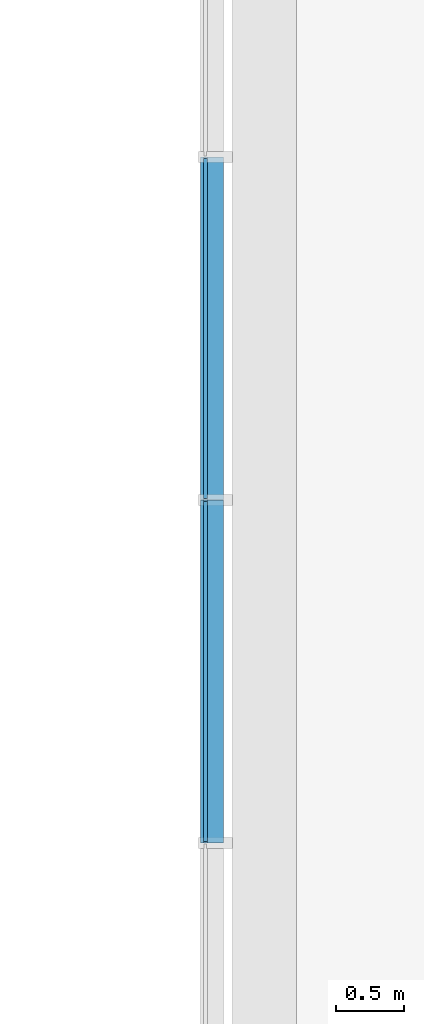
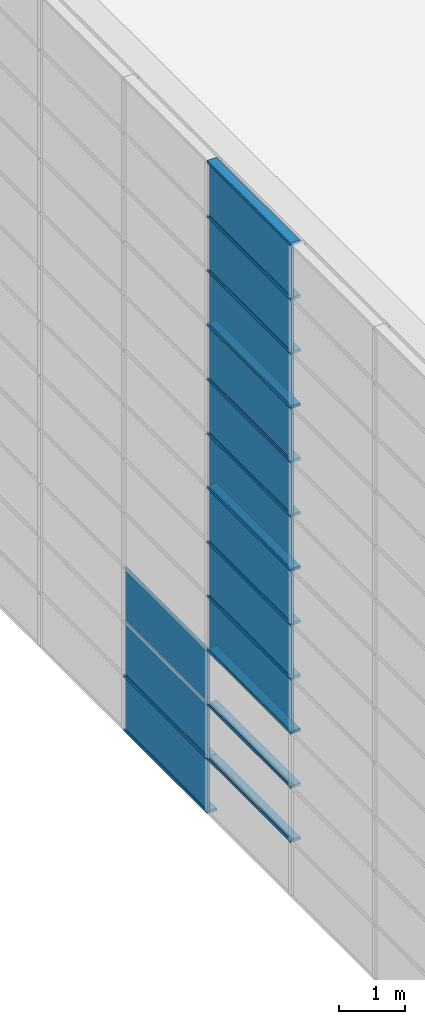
# One storey, part 9 of 105: 29 building element parts, 4 elements without a shape of their own.
"""IFC4 building model written with IfcOpenShell, lengths in millimetres."""

from ifc_helpers import new_model, entity, si_unit, converted_unit, derived_unit, direction, frame, origin_with_axes, place, context, subcontext, project, spatial, triangles, material, element, aggregate, save


model = new_model("IFC4")

# Units and contexts
model_context = context("Model", 3, precision=1e-05, world=origin_with_axes(), true_north=direction((0.0, 1.0)))
body_context = subcontext(model_context, "Body", "Model", "MODEL_VIEW")
ifc_project = project(units=[si_unit("LENGTHUNIT", "METRE", prefix="MILLI"), si_unit("AREAUNIT", "SQUARE_METRE"), si_unit("VOLUMEUNIT", "CUBIC_METRE"), converted_unit("PLANEANGLEUNIT", "DEGREE", entity("IfcLengthMeasure", 0.017453), si_unit("PLANEANGLEUNIT", "RADIAN"), dimensions=[0, 0, 0, 0, 0, 0, 0]), si_unit("SOLIDANGLEUNIT", "STERADIAN"), si_unit("MASSUNIT", "GRAM"), si_unit("TIMEUNIT", "SECOND"), si_unit("THERMODYNAMICTEMPERATUREUNIT", "DEGREE_CELSIUS"), si_unit("LUMINOUSINTENSITYUNIT", "LUMEN"), si_unit("POWERUNIT", "WATT"), derived_unit("THERMALTRANSMITTANCEUNIT", [(si_unit("POWERUNIT", "WATT"), 1), (si_unit("THERMODYNAMICTEMPERATUREUNIT", "KELVIN"), -1), (si_unit("AREAUNIT", "SQUARE_METRE"), -1)])], contexts=[model_context])

# Site, building, storey
site_placement = place(None, origin_with_axes())
site = spatial("IfcSite", under=ifc_project, at=site_placement, Name="Default Site", CompositionType="ELEMENT")
building_placement = place(site_placement, origin_with_axes())
building = spatial("IfcBuilding", under=site, at=building_placement, Name="Default Building", CompositionType="ELEMENT")
storey_placement = place(building_placement, origin_with_axes())
storey = spatial("IfcBuildingStorey", under=building, at=storey_placement, Name="OG - Story", CompositionType="ELEMENT", Elevation=0.0)

# Curtain wall, building element parts
curtain_wall_1_placement = place(storey_placement, origin_with_axes())
curtain_wall_1 = element("IfcCurtainWall", 1, at=curtain_wall_1_placement, inside=storey, Name="Fassade-003", PredefinedType="NOTDEFINED")
ifc_material_1 = material(Name="Normalglas")
building_element_part_1_placement = place(curtain_wall_1_placement, frame((31551.391327, -51326.104944, 0.0), z_axis=(0.0, 0.0, 1.0), x_axis=(1.0, 0.0, 0.0)))
building_element_part_1 = element("IfcBuildingElementPart", 2, at=building_element_part_1_placement, material=ifc_material_1, Name="Normalglas", PredefinedType="NOTDEFINED", context=body_context, shape_type="Tessellation", body=[
    triangles([(15.0, 11358.421, 995.0), (-14.999, 11358.421, 995.0), (-14.999, 8852.105, 995.0), (15.0, 8852.105, 995.0), (15.0, 11358.421, 5.0), (-14.999, 11358.421, 5.0), (-14.999, 8852.105, 5.0), (15.0, 8852.105, 5.0)], [[1, 2, 3], [1, 3, 4], [5, 6, 2], [5, 2, 1], [2, 6, 7], [2, 7, 3], [4, 3, 7], [4, 7, 8], [1, 4, 8], [1, 8, 5], [8, 7, 6], [8, 6, 5]], closed=False),
])
building_element_part_2_placement = place(curtain_wall_1_placement, frame((31551.391327, -51326.104944, 0.0), z_axis=(0.0, 0.0, 1.0), x_axis=(1.0, 0.0, 0.0)))
building_element_part_2 = element("IfcBuildingElementPart", 3, at=building_element_part_2_placement, material=ifc_material_1, Name="Normalglas", PredefinedType="NOTDEFINED", context=body_context, shape_type="Tessellation", body=[
    triangles([(15.0, 11358.421, 1995.0), (-14.999, 11358.421, 1995.0), (-14.999, 8852.105, 1995.0), (15.0, 8852.105, 1995.0), (15.0, 11358.421, 1005.0), (-14.999, 11358.421, 1005.0), (-14.999, 8852.105, 1005.0), (15.0, 8852.105, 1005.0)], [[1, 2, 3], [1, 3, 4], [5, 6, 2], [5, 2, 1], [2, 6, 7], [2, 7, 3], [4, 3, 7], [4, 7, 8], [1, 4, 8], [1, 8, 5], [8, 7, 6], [8, 6, 5]], closed=False),
])
building_element_part_3_placement = place(curtain_wall_1_placement, frame((31551.391327, -51326.104944, 0.0), z_axis=(0.0, 0.0, 1.0), x_axis=(1.0, 0.0, 0.0)))
building_element_part_3 = element("IfcBuildingElementPart", 4, at=building_element_part_3_placement, material=ifc_material_1, Name="Normalglas", PredefinedType="NOTDEFINED", context=body_context, shape_type="Tessellation", body=[
    triangles([(15.0, 11358.421, 2995.0), (-14.999, 11358.421, 2995.0), (-14.999, 8852.105, 2995.0), (15.0, 8852.105, 2995.0), (15.0, 11358.421, 2005.0), (-14.999, 11358.421, 2005.0), (-14.999, 8852.105, 2005.0), (15.0, 8852.105, 2005.0)], [[1, 2, 3], [1, 3, 4], [5, 6, 2], [5, 2, 1], [2, 6, 7], [2, 7, 3], [4, 3, 7], [4, 7, 8], [1, 4, 8], [1, 8, 5], [8, 7, 6], [8, 6, 5]], closed=False),
])
ifc_material_2 = material(Name="Blech")
building_element_part_4_placement = place(curtain_wall_1_placement, frame((31551.391327, -51326.104944, 0.0), z_axis=(0.0, 0.0, 1.0), x_axis=(1.0, 0.0, 0.0)))
building_element_part_4 = element("IfcBuildingElementPart", 5, at=building_element_part_4_placement, material=ifc_material_2, Name="Blech", PredefinedType="NOTDEFINED", context=body_context, shape_type="Tessellation", body=[
    triangles([(15.0, 11368.421, 25.0), (133.0, 11368.421, 25.0), (15.0, 11368.421, 5.0), (133.0, 11368.421, -24.999), (-14.999, 11368.421, 5.0), (-34.999, 11368.421, -24.999), (-34.999, 11368.421, 25.0), (-14.999, 11368.421, 25.0), (15.0, 8842.105, 5.0), (15.0, 8842.105, 25.0), (133.0, 8842.105, 25.0), (133.0, 8842.105, -24.999), (-34.999, 8842.105, -24.999), (-34.999, 8842.105, 25.0), (-14.999, 8842.105, 25.0), (-14.999, 8842.105, 5.0)], [[1, 2, 3], [3, 2, 4], [3, 4, 5], [5, 4, 6], [5, 6, 7], [5, 7, 8], [3, 9, 10], [3, 10, 1], [10, 11, 2], [10, 2, 1], [11, 12, 4], [11, 4, 2], [12, 13, 6], [12, 6, 4], [13, 14, 7], [13, 7, 6], [8, 7, 14], [8, 14, 15], [15, 16, 5], [15, 5, 8], [5, 16, 9], [5, 9, 3], [16, 9, 12], [16, 12, 13], [16, 13, 14], [16, 14, 15], [11, 12, 9], [11, 9, 10]], closed=False),
])
building_element_part_5_placement = place(curtain_wall_1_placement, frame((31551.391327, -51326.104944, 0.0), z_axis=(0.0, 0.0, 1.0), x_axis=(1.0, 0.0, 0.0)))
building_element_part_5 = element("IfcBuildingElementPart", 6, at=building_element_part_5_placement, material=ifc_material_2, Name="Blech", PredefinedType="NOTDEFINED", context=body_context, shape_type="Tessellation", body=[
    triangles([(-14.999, 8842.105, 1025.0), (-34.999, 8842.105, 1025.0), (-14.999, 8842.105, 1005.0), (-14.999, 8842.105, 995.0), (15.0, 8842.105, 1005.0), (133.0, 8842.105, 1025.0), (15.0, 8842.105, 1025.0), (-34.999, 8842.105, 975.0), (-14.999, 8842.105, 975.0), (15.0, 8842.105, 995.0), (15.0, 8842.105, 975.0), (133.0, 8842.105, 975.0), (15.0, 6315.789, 995.0), (-14.999, 6315.789, 995.0), (-14.999, 6315.789, 975.0), (-34.999, 6315.789, 975.0), (-34.999, 6315.789, 1025.0), (-14.999, 6315.789, 1025.0), (-14.999, 6315.789, 1005.0), (15.0, 6315.789, 1005.0), (15.0, 6315.789, 1025.0), (133.0, 6315.789, 1025.0), (133.0, 6315.789, 975.0), (15.0, 6315.789, 975.0)], [[1, 2, 3], [3, 2, 4], [3, 4, 5], [5, 4, 6], [5, 6, 7], [8, 9, 4], [8, 4, 2], [6, 4, 10], [6, 10, 11], [6, 11, 12], [10, 13, 14], [10, 14, 4], [4, 14, 15], [4, 15, 9], [15, 16, 8], [15, 8, 9], [8, 16, 17], [8, 17, 2], [18, 1, 2], [18, 2, 17], [1, 18, 19], [1, 19, 3], [5, 3, 19], [5, 19, 20], [7, 5, 20], [7, 20, 21], [7, 21, 22], [7, 22, 6], [6, 22, 23], [6, 23, 12], [11, 12, 23], [11, 23, 24], [11, 24, 13], [11, 13, 10], [21, 22, 20], [20, 22, 13], [20, 13, 19], [19, 13, 14], [19, 14, 17], [17, 14, 15], [17, 15, 16], [23, 24, 13], [23, 13, 22], [19, 17, 18]], closed=False),
])
building_element_part_6_placement = place(curtain_wall_1_placement, frame((31551.391327, -51326.104944, 0.0), z_axis=(0.0, 0.0, 1.0), x_axis=(1.0, 0.0, 0.0)))
building_element_part_6 = element("IfcBuildingElementPart", 7, at=building_element_part_6_placement, material=ifc_material_2, Name="Blech", PredefinedType="NOTDEFINED", context=body_context, shape_type="Tessellation", body=[
    triangles([(-14.999, 11368.421, 1025.0), (-34.999, 11368.421, 1025.0), (-14.999, 11368.421, 1005.0), (-14.999, 11368.421, 995.0), (15.0, 11368.421, 1005.0), (133.0, 11368.421, 1025.0), (15.0, 11368.421, 1025.0), (-34.999, 11368.421, 975.0), (-14.999, 11368.421, 975.0), (15.0, 11368.421, 995.0), (15.0, 11368.421, 975.0), (133.0, 11368.421, 975.0), (15.0, 8842.105, 995.0), (-14.999, 8842.105, 995.0), (-14.999, 8842.105, 975.0), (-34.999, 8842.105, 975.0), (-34.999, 8842.105, 1025.0), (-14.999, 8842.105, 1025.0), (-14.999, 8842.105, 1005.0), (15.0, 8842.105, 1005.0), (15.0, 8842.105, 1025.0), (133.0, 8842.105, 1025.0), (133.0, 8842.105, 975.0), (15.0, 8842.105, 975.0)], [[1, 2, 3], [3, 2, 4], [3, 4, 5], [5, 4, 6], [5, 6, 7], [8, 9, 4], [8, 4, 2], [6, 4, 10], [6, 10, 11], [6, 11, 12], [10, 13, 14], [10, 14, 4], [4, 14, 15], [4, 15, 9], [15, 16, 8], [15, 8, 9], [8, 16, 17], [8, 17, 2], [18, 1, 2], [18, 2, 17], [1, 18, 19], [1, 19, 3], [5, 3, 19], [5, 19, 20], [7, 5, 20], [7, 20, 21], [7, 21, 22], [7, 22, 6], [6, 22, 23], [6, 23, 12], [11, 12, 23], [11, 23, 24], [11, 24, 13], [11, 13, 10], [21, 22, 20], [20, 22, 13], [20, 13, 19], [19, 13, 14], [19, 14, 17], [17, 14, 15], [17, 15, 16], [23, 24, 13], [23, 13, 22], [19, 17, 18]], closed=False),
])
building_element_part_7_placement = place(curtain_wall_1_placement, frame((31551.391327, -51326.104944, 0.0), z_axis=(0.0, 0.0, 1.0), x_axis=(1.0, 0.0, 0.0)))
building_element_part_7 = element("IfcBuildingElementPart", 8, at=building_element_part_7_placement, material=ifc_material_2, Name="Blech", PredefinedType="NOTDEFINED", context=body_context, shape_type="Tessellation", body=[
    triangles([(-14.999, 8842.105, 2025.0), (-34.999, 8842.105, 2025.0), (-14.999, 8842.105, 2005.0), (-14.999, 8842.105, 1995.0), (15.0, 8842.105, 2005.0), (133.0, 8842.105, 2025.0), (15.0, 8842.105, 2025.0), (-34.999, 8842.105, 1975.0), (-14.999, 8842.105, 1975.0), (15.0, 8842.105, 1995.0), (15.0, 8842.105, 1975.0), (133.0, 8842.105, 1975.0), (15.0, 6315.789, 1995.0), (-14.999, 6315.789, 1995.0), (-14.999, 6315.789, 1975.0), (-34.999, 6315.789, 1975.0), (-34.999, 6315.789, 2025.0), (-14.999, 6315.789, 2025.0), (-14.999, 6315.789, 2005.0), (15.0, 6315.789, 2005.0), (15.0, 6315.789, 2025.0), (133.0, 6315.789, 2025.0), (133.0, 6315.789, 1975.0), (15.0, 6315.789, 1975.0)], [[1, 2, 3], [3, 2, 4], [3, 4, 5], [5, 4, 6], [5, 6, 7], [8, 9, 4], [8, 4, 2], [6, 4, 10], [6, 10, 11], [6, 11, 12], [10, 13, 14], [10, 14, 4], [4, 14, 15], [4, 15, 9], [15, 16, 8], [15, 8, 9], [8, 16, 17], [8, 17, 2], [18, 1, 2], [18, 2, 17], [1, 18, 19], [1, 19, 3], [5, 3, 19], [5, 19, 20], [7, 5, 20], [7, 20, 21], [7, 21, 22], [7, 22, 6], [6, 22, 23], [6, 23, 12], [11, 12, 23], [11, 23, 24], [11, 24, 13], [11, 13, 10], [21, 22, 20], [20, 22, 13], [20, 13, 19], [19, 13, 14], [19, 14, 17], [17, 14, 15], [17, 15, 16], [23, 24, 13], [23, 13, 22], [19, 17, 18]], closed=False),
])
building_element_part_8_placement = place(curtain_wall_1_placement, frame((31551.391327, -51326.104944, 0.0), z_axis=(0.0, 0.0, 1.0), x_axis=(1.0, 0.0, 0.0)))
building_element_part_8 = element("IfcBuildingElementPart", 9, at=building_element_part_8_placement, material=ifc_material_2, Name="Blech", PredefinedType="NOTDEFINED", context=body_context, shape_type="Tessellation", body=[
    triangles([(-14.999, 8842.105, 2995.0), (15.0, 8842.105, 2995.0), (133.0, 8842.105, 3025.0), (-34.999, 8842.105, 3025.0), (-34.999, 8842.105, 2975.0), (-14.999, 8842.105, 2975.0), (15.0, 8842.105, 2975.0), (133.0, 8842.105, 2975.0), (15.0, 6315.789, 2995.0), (-14.999, 6315.789, 2995.0), (-14.999, 6315.789, 2975.0), (-34.999, 6315.789, 2975.0), (-34.999, 6315.789, 3025.0), (133.0, 6315.789, 3025.0), (133.0, 6315.789, 2975.0), (15.0, 6315.789, 2975.0)], [[1, 2, 3], [1, 3, 4], [1, 4, 5], [1, 5, 6], [7, 8, 3], [7, 3, 2], [1, 2, 9], [1, 9, 10], [11, 6, 1], [11, 1, 10], [6, 11, 12], [6, 12, 5], [13, 4, 5], [13, 5, 12], [14, 3, 4], [14, 4, 13], [15, 8, 3], [15, 3, 14], [16, 7, 8], [16, 8, 15], [2, 7, 16], [2, 16, 9], [10, 9, 14], [10, 14, 13], [10, 13, 12], [10, 12, 11], [16, 15, 14], [16, 14, 9]], closed=False),
])
aggregate(curtain_wall_1, [building_element_part_1, building_element_part_2, building_element_part_3, building_element_part_4, building_element_part_5, building_element_part_6, building_element_part_7, building_element_part_8])

curtain_wall_2_placement = place(storey_placement, origin_with_axes())
curtain_wall_2 = element("IfcCurtainWall", 10, at=curtain_wall_2_placement, inside=storey, Name="Fassade-003", PredefinedType="NOTDEFINED")
building_element_part_9_placement = place(curtain_wall_2_placement, frame((31551.391327, -51326.104944, 3000.0), z_axis=(0.0, 0.0, 1.0), x_axis=(1.0, 0.0, 0.0)))
building_element_part_9 = element("IfcBuildingElementPart", 11, at=building_element_part_9_placement, material=ifc_material_1, Name="Normalglas", PredefinedType="NOTDEFINED", context=body_context, shape_type="Tessellation", body=[
    triangles([(15.0, 8832.105, 995.0), (-14.999, 8832.105, 995.0), (-14.999, 6325.789, 995.0), (15.0, 6325.789, 995.0), (15.0, 8832.105, 5.0), (-14.999, 8832.105, 5.0), (-14.999, 6325.789, 5.0), (15.0, 6325.789, 5.0)], [[1, 2, 3], [1, 3, 4], [5, 6, 2], [5, 2, 1], [2, 6, 7], [2, 7, 3], [4, 3, 7], [4, 7, 8], [1, 4, 8], [1, 8, 5], [8, 7, 6], [8, 6, 5]], closed=False),
])
building_element_part_10_placement = place(curtain_wall_2_placement, frame((31551.391327, -51326.104944, 3000.0), z_axis=(0.0, 0.0, 1.0), x_axis=(1.0, 0.0, 0.0)))
building_element_part_10 = element("IfcBuildingElementPart", 12, at=building_element_part_10_placement, material=ifc_material_1, Name="Normalglas", PredefinedType="NOTDEFINED", context=body_context, shape_type="Tessellation", body=[
    triangles([(15.0, 8832.105, 1995.0), (-14.999, 8832.105, 1995.0), (-14.999, 6325.789, 1995.0), (15.0, 6325.789, 1995.0), (15.0, 8832.105, 1005.0), (-14.999, 8832.105, 1005.0), (-14.999, 6325.789, 1005.0), (15.0, 6325.789, 1005.0)], [[1, 2, 3], [1, 3, 4], [5, 6, 2], [5, 2, 1], [2, 6, 7], [2, 7, 3], [4, 3, 7], [4, 7, 8], [1, 4, 8], [1, 8, 5], [8, 7, 6], [8, 6, 5]], closed=False),
])
building_element_part_11_placement = place(curtain_wall_2_placement, frame((31551.391327, -51326.104944, 3000.0), z_axis=(0.0, 0.0, 1.0), x_axis=(1.0, 0.0, 0.0)))
building_element_part_11 = element("IfcBuildingElementPart", 13, at=building_element_part_11_placement, material=ifc_material_1, Name="Normalglas", PredefinedType="NOTDEFINED", context=body_context, shape_type="Tessellation", body=[
    triangles([(15.0, 8832.105, 2995.0), (-14.999, 8832.105, 2995.0), (-14.999, 6325.789, 2995.0), (15.0, 6325.789, 2995.0), (15.0, 8832.105, 2005.0), (-14.999, 8832.105, 2005.0), (-14.999, 6325.789, 2005.0), (15.0, 6325.789, 2005.0)], [[1, 2, 3], [1, 3, 4], [5, 6, 2], [5, 2, 1], [2, 6, 7], [2, 7, 3], [4, 3, 7], [4, 7, 8], [1, 4, 8], [1, 8, 5], [8, 7, 6], [8, 6, 5]], closed=False),
])
building_element_part_12_placement = place(curtain_wall_2_placement, frame((31551.391327, -51326.104944, 3000.0), z_axis=(0.0, 0.0, 1.0), x_axis=(1.0, 0.0, 0.0)))
building_element_part_12 = element("IfcBuildingElementPart", 14, at=building_element_part_12_placement, material=ifc_material_2, Name="Blech", PredefinedType="NOTDEFINED", context=body_context, shape_type="Tessellation", body=[
    triangles([(15.0, 8842.105, 25.0), (133.0, 8842.105, 25.0), (15.0, 8842.105, 5.0), (133.0, 8842.105, -24.999), (-14.999, 8842.105, 5.0), (-34.999, 8842.105, -24.999), (-34.999, 8842.105, 25.0), (-14.999, 8842.105, 25.0), (15.0, 6315.789, 5.0), (15.0, 6315.789, 25.0), (133.0, 6315.789, 25.0), (133.0, 6315.789, -24.999), (-34.999, 6315.789, -24.999), (-34.999, 6315.789, 25.0), (-14.999, 6315.789, 25.0), (-14.999, 6315.789, 5.0)], [[1, 2, 3], [3, 2, 4], [3, 4, 5], [5, 4, 6], [5, 6, 7], [5, 7, 8], [3, 9, 10], [3, 10, 1], [10, 11, 2], [10, 2, 1], [11, 12, 4], [11, 4, 2], [12, 13, 6], [12, 6, 4], [13, 14, 7], [13, 7, 6], [8, 7, 14], [8, 14, 15], [15, 16, 5], [15, 5, 8], [5, 16, 9], [5, 9, 3], [16, 9, 12], [16, 12, 13], [16, 13, 14], [16, 14, 15], [11, 12, 9], [11, 9, 10]], closed=False),
])
building_element_part_13_placement = place(curtain_wall_2_placement, frame((31551.391327, -51326.104944, 3000.0), z_axis=(0.0, 0.0, 1.0), x_axis=(1.0, 0.0, 0.0)))
building_element_part_13 = element("IfcBuildingElementPart", 15, at=building_element_part_13_placement, material=ifc_material_2, Name="Blech", PredefinedType="NOTDEFINED", context=body_context, shape_type="Tessellation", body=[
    triangles([(-14.999, 8842.105, 1025.0), (-34.999, 8842.105, 1025.0), (-14.999, 8842.105, 1005.0), (-14.999, 8842.105, 995.0), (15.0, 8842.105, 1005.0), (133.0, 8842.105, 1025.0), (15.0, 8842.105, 1025.0), (-34.999, 8842.105, 975.0), (-14.999, 8842.105, 975.0), (15.0, 8842.105, 995.0), (15.0, 8842.105, 975.0), (133.0, 8842.105, 975.0), (15.0, 6315.789, 995.0), (-14.999, 6315.789, 995.0), (-14.999, 6315.789, 975.0), (-34.999, 6315.789, 975.0), (-34.999, 6315.789, 1025.0), (-14.999, 6315.789, 1025.0), (-14.999, 6315.789, 1005.0), (15.0, 6315.789, 1005.0), (15.0, 6315.789, 1025.0), (133.0, 6315.789, 1025.0), (133.0, 6315.789, 975.0), (15.0, 6315.789, 975.0)], [[1, 2, 3], [3, 2, 4], [3, 4, 5], [5, 4, 6], [5, 6, 7], [8, 9, 4], [8, 4, 2], [6, 4, 10], [6, 10, 11], [6, 11, 12], [10, 13, 14], [10, 14, 4], [4, 14, 15], [4, 15, 9], [15, 16, 8], [15, 8, 9], [8, 16, 17], [8, 17, 2], [18, 1, 2], [18, 2, 17], [1, 18, 19], [1, 19, 3], [5, 3, 19], [5, 19, 20], [7, 5, 20], [7, 20, 21], [7, 21, 22], [7, 22, 6], [6, 22, 23], [6, 23, 12], [11, 12, 23], [11, 23, 24], [11, 24, 13], [11, 13, 10], [21, 22, 20], [20, 22, 13], [20, 13, 19], [19, 13, 14], [19, 14, 17], [17, 14, 15], [17, 15, 16], [23, 24, 13], [23, 13, 22], [19, 17, 18]], closed=False),
])
building_element_part_14_placement = place(curtain_wall_2_placement, frame((31551.391327, -51326.104944, 3000.0), z_axis=(0.0, 0.0, 1.0), x_axis=(1.0, 0.0, 0.0)))
building_element_part_14 = element("IfcBuildingElementPart", 16, at=building_element_part_14_placement, material=ifc_material_2, Name="Blech", PredefinedType="NOTDEFINED", context=body_context, shape_type="Tessellation", body=[
    triangles([(-14.999, 8842.105, 2025.0), (-34.999, 8842.105, 2025.0), (-14.999, 8842.105, 2005.0), (-14.999, 8842.105, 1995.0), (15.0, 8842.105, 2005.0), (133.0, 8842.105, 2025.0), (15.0, 8842.105, 2025.0), (-34.999, 8842.105, 1975.0), (-14.999, 8842.105, 1975.0), (15.0, 8842.105, 1995.0), (15.0, 8842.105, 1975.0), (133.0, 8842.105, 1975.0), (15.0, 6315.789, 1995.0), (-14.999, 6315.789, 1995.0), (-14.999, 6315.789, 1975.0), (-34.999, 6315.789, 1975.0), (-34.999, 6315.789, 2025.0), (-14.999, 6315.789, 2025.0), (-14.999, 6315.789, 2005.0), (15.0, 6315.789, 2005.0), (15.0, 6315.789, 2025.0), (133.0, 6315.789, 2025.0), (133.0, 6315.789, 1975.0), (15.0, 6315.789, 1975.0)], [[1, 2, 3], [3, 2, 4], [3, 4, 5], [5, 4, 6], [5, 6, 7], [8, 9, 4], [8, 4, 2], [6, 4, 10], [6, 10, 11], [6, 11, 12], [10, 13, 14], [10, 14, 4], [4, 14, 15], [4, 15, 9], [15, 16, 8], [15, 8, 9], [8, 16, 17], [8, 17, 2], [18, 1, 2], [18, 2, 17], [1, 18, 19], [1, 19, 3], [5, 3, 19], [5, 19, 20], [7, 5, 20], [7, 20, 21], [7, 21, 22], [7, 22, 6], [6, 22, 23], [6, 23, 12], [11, 12, 23], [11, 23, 24], [11, 24, 13], [11, 13, 10], [21, 22, 20], [20, 22, 13], [20, 13, 19], [19, 13, 14], [19, 14, 17], [17, 14, 15], [17, 15, 16], [23, 24, 13], [23, 13, 22], [19, 17, 18]], closed=False),
])
building_element_part_15_placement = place(curtain_wall_2_placement, frame((31551.391327, -51326.104944, 3000.0), z_axis=(0.0, 0.0, 1.0), x_axis=(1.0, 0.0, 0.0)))
building_element_part_15 = element("IfcBuildingElementPart", 17, at=building_element_part_15_placement, material=ifc_material_2, Name="Blech", PredefinedType="NOTDEFINED", context=body_context, shape_type="Tessellation", body=[
    triangles([(-14.999, 8842.105, 2995.0), (15.0, 8842.105, 2995.0), (133.0, 8842.105, 3025.0), (-34.999, 8842.105, 3025.0), (-34.999, 8842.105, 2975.0), (-14.999, 8842.105, 2975.0), (15.0, 8842.105, 2975.0), (133.0, 8842.105, 2975.0), (15.0, 6315.789, 2995.0), (-14.999, 6315.789, 2995.0), (-14.999, 6315.789, 2975.0), (-34.999, 6315.789, 2975.0), (-34.999, 6315.789, 3025.0), (133.0, 6315.789, 3025.0), (133.0, 6315.789, 2975.0), (15.0, 6315.789, 2975.0)], [[1, 2, 3], [1, 3, 4], [1, 4, 5], [1, 5, 6], [7, 8, 3], [7, 3, 2], [1, 2, 9], [1, 9, 10], [11, 6, 1], [11, 1, 10], [6, 11, 12], [6, 12, 5], [13, 4, 5], [13, 5, 12], [14, 3, 4], [14, 4, 13], [15, 8, 3], [15, 3, 14], [16, 7, 8], [16, 8, 15], [2, 7, 16], [2, 16, 9], [10, 9, 14], [10, 14, 13], [10, 13, 12], [10, 12, 11], [16, 15, 14], [16, 14, 9]], closed=False),
])
aggregate(curtain_wall_2, [building_element_part_9, building_element_part_10, building_element_part_11, building_element_part_12, building_element_part_13, building_element_part_14, building_element_part_15])

curtain_wall_3_placement = place(storey_placement, origin_with_axes())
curtain_wall_3 = element("IfcCurtainWall", 18, at=curtain_wall_3_placement, inside=storey, Name="Fassade-003", PredefinedType="NOTDEFINED")
building_element_part_16_placement = place(curtain_wall_3_placement, frame((31551.391327, -51326.104944, 6000.0), z_axis=(0.0, 0.0, 1.0), x_axis=(1.0, 0.0, 0.0)))
building_element_part_16 = element("IfcBuildingElementPart", 19, at=building_element_part_16_placement, material=ifc_material_1, Name="Normalglas", PredefinedType="NOTDEFINED", context=body_context, shape_type="Tessellation", body=[
    triangles([(15.0, 8832.105, 995.0), (-14.999, 8832.105, 995.0), (-14.999, 6325.789, 995.0), (15.0, 6325.789, 995.0), (15.0, 8832.105, 5.0), (-14.999, 8832.105, 5.0), (-14.999, 6325.789, 5.0), (15.0, 6325.789, 5.0)], [[1, 2, 3], [1, 3, 4], [5, 6, 2], [5, 2, 1], [2, 6, 7], [2, 7, 3], [4, 3, 7], [4, 7, 8], [1, 4, 8], [1, 8, 5], [8, 7, 6], [8, 6, 5]], closed=False),
])
building_element_part_17_placement = place(curtain_wall_3_placement, frame((31551.391327, -51326.104944, 6000.0), z_axis=(0.0, 0.0, 1.0), x_axis=(1.0, 0.0, 0.0)))
building_element_part_17 = element("IfcBuildingElementPart", 20, at=building_element_part_17_placement, material=ifc_material_1, Name="Normalglas", PredefinedType="NOTDEFINED", context=body_context, shape_type="Tessellation", body=[
    triangles([(15.0, 8832.105, 1995.0), (-14.999, 8832.105, 1995.0), (-14.999, 6325.789, 1995.0), (15.0, 6325.789, 1995.0), (15.0, 8832.105, 1005.0), (-14.999, 8832.105, 1005.0), (-14.999, 6325.789, 1005.0), (15.0, 6325.789, 1005.0)], [[1, 2, 3], [1, 3, 4], [5, 6, 2], [5, 2, 1], [2, 6, 7], [2, 7, 3], [4, 3, 7], [4, 7, 8], [1, 4, 8], [1, 8, 5], [8, 7, 6], [8, 6, 5]], closed=False),
])
building_element_part_18_placement = place(curtain_wall_3_placement, frame((31551.391327, -51326.104944, 6000.0), z_axis=(0.0, 0.0, 1.0), x_axis=(1.0, 0.0, 0.0)))
building_element_part_18 = element("IfcBuildingElementPart", 21, at=building_element_part_18_placement, material=ifc_material_1, Name="Normalglas", PredefinedType="NOTDEFINED", context=body_context, shape_type="Tessellation", body=[
    triangles([(15.0, 8832.105, 2995.0), (-14.999, 8832.105, 2995.0), (-14.999, 6325.789, 2995.0), (15.0, 6325.789, 2995.0), (15.0, 8832.105, 2005.0), (-14.999, 8832.105, 2005.0), (-14.999, 6325.789, 2005.0), (15.0, 6325.789, 2005.0)], [[1, 2, 3], [1, 3, 4], [5, 6, 2], [5, 2, 1], [2, 6, 7], [2, 7, 3], [4, 3, 7], [4, 7, 8], [1, 4, 8], [1, 8, 5], [8, 7, 6], [8, 6, 5]], closed=False),
])
building_element_part_19_placement = place(curtain_wall_3_placement, frame((31551.391327, -51326.104944, 6000.0), z_axis=(0.0, 0.0, 1.0), x_axis=(1.0, 0.0, 0.0)))
building_element_part_19 = element("IfcBuildingElementPart", 22, at=building_element_part_19_placement, material=ifc_material_2, Name="Blech", PredefinedType="NOTDEFINED", context=body_context, shape_type="Tessellation", body=[
    triangles([(15.0, 8842.105, 25.0), (133.0, 8842.105, 25.0), (15.0, 8842.105, 5.0), (133.0, 8842.105, -24.999), (-14.999, 8842.105, 5.0), (-34.999, 8842.105, -24.999), (-34.999, 8842.105, 25.0), (-14.999, 8842.105, 25.0), (15.0, 6315.789, 5.0), (15.0, 6315.789, 25.0), (133.0, 6315.789, 25.0), (133.0, 6315.789, -24.999), (-34.999, 6315.789, -24.999), (-34.999, 6315.789, 25.0), (-14.999, 6315.789, 25.0), (-14.999, 6315.789, 5.0)], [[1, 2, 3], [3, 2, 4], [3, 4, 5], [5, 4, 6], [5, 6, 7], [5, 7, 8], [3, 9, 10], [3, 10, 1], [10, 11, 2], [10, 2, 1], [11, 12, 4], [11, 4, 2], [12, 13, 6], [12, 6, 4], [13, 14, 7], [13, 7, 6], [8, 7, 14], [8, 14, 15], [15, 16, 5], [15, 5, 8], [5, 16, 9], [5, 9, 3], [16, 9, 12], [16, 12, 13], [16, 13, 14], [16, 14, 15], [11, 12, 9], [11, 9, 10]], closed=False),
])
building_element_part_20_placement = place(curtain_wall_3_placement, frame((31551.391327, -51326.104944, 6000.0), z_axis=(0.0, 0.0, 1.0), x_axis=(1.0, 0.0, 0.0)))
building_element_part_20 = element("IfcBuildingElementPart", 23, at=building_element_part_20_placement, material=ifc_material_2, Name="Blech", PredefinedType="NOTDEFINED", context=body_context, shape_type="Tessellation", body=[
    triangles([(-14.999, 8842.105, 1025.0), (-34.999, 8842.105, 1025.0), (-14.999, 8842.105, 1005.0), (-14.999, 8842.105, 995.0), (15.0, 8842.105, 1005.0), (133.0, 8842.105, 1025.0), (15.0, 8842.105, 1025.0), (-34.999, 8842.105, 975.0), (-14.999, 8842.105, 975.0), (15.0, 8842.105, 995.0), (15.0, 8842.105, 975.0), (133.0, 8842.105, 975.0), (15.0, 6315.789, 995.0), (-14.999, 6315.789, 995.0), (-14.999, 6315.789, 975.0), (-34.999, 6315.789, 975.0), (-34.999, 6315.789, 1025.0), (-14.999, 6315.789, 1025.0), (-14.999, 6315.789, 1005.0), (15.0, 6315.789, 1005.0), (15.0, 6315.789, 1025.0), (133.0, 6315.789, 1025.0), (133.0, 6315.789, 975.0), (15.0, 6315.789, 975.0)], [[1, 2, 3], [3, 2, 4], [3, 4, 5], [5, 4, 6], [5, 6, 7], [8, 9, 4], [8, 4, 2], [6, 4, 10], [6, 10, 11], [6, 11, 12], [10, 13, 14], [10, 14, 4], [4, 14, 15], [4, 15, 9], [15, 16, 8], [15, 8, 9], [8, 16, 17], [8, 17, 2], [18, 1, 2], [18, 2, 17], [1, 18, 19], [1, 19, 3], [5, 3, 19], [5, 19, 20], [7, 5, 20], [7, 20, 21], [7, 21, 22], [7, 22, 6], [6, 22, 23], [6, 23, 12], [11, 12, 23], [11, 23, 24], [11, 24, 13], [11, 13, 10], [21, 22, 20], [20, 22, 13], [20, 13, 19], [19, 13, 14], [19, 14, 17], [17, 14, 15], [17, 15, 16], [23, 24, 13], [23, 13, 22], [19, 17, 18]], closed=False),
])
building_element_part_21_placement = place(curtain_wall_3_placement, frame((31551.391327, -51326.104944, 6000.0), z_axis=(0.0, 0.0, 1.0), x_axis=(1.0, 0.0, 0.0)))
building_element_part_21 = element("IfcBuildingElementPart", 24, at=building_element_part_21_placement, material=ifc_material_2, Name="Blech", PredefinedType="NOTDEFINED", context=body_context, shape_type="Tessellation", body=[
    triangles([(-14.999, 8842.105, 2025.0), (-34.999, 8842.105, 2025.0), (-14.999, 8842.105, 2005.0), (-14.999, 8842.105, 1995.0), (15.0, 8842.105, 2005.0), (133.0, 8842.105, 2025.0), (15.0, 8842.105, 2025.0), (-34.999, 8842.105, 1975.0), (-14.999, 8842.105, 1975.0), (15.0, 8842.105, 1995.0), (15.0, 8842.105, 1975.0), (133.0, 8842.105, 1975.0), (15.0, 6315.789, 1995.0), (-14.999, 6315.789, 1995.0), (-14.999, 6315.789, 1975.0), (-34.999, 6315.789, 1975.0), (-34.999, 6315.789, 2025.0), (-14.999, 6315.789, 2025.0), (-14.999, 6315.789, 2005.0), (15.0, 6315.789, 2005.0), (15.0, 6315.789, 2025.0), (133.0, 6315.789, 2025.0), (133.0, 6315.789, 1975.0), (15.0, 6315.789, 1975.0)], [[1, 2, 3], [3, 2, 4], [3, 4, 5], [5, 4, 6], [5, 6, 7], [8, 9, 4], [8, 4, 2], [6, 4, 10], [6, 10, 11], [6, 11, 12], [10, 13, 14], [10, 14, 4], [4, 14, 15], [4, 15, 9], [15, 16, 8], [15, 8, 9], [8, 16, 17], [8, 17, 2], [18, 1, 2], [18, 2, 17], [1, 18, 19], [1, 19, 3], [5, 3, 19], [5, 19, 20], [7, 5, 20], [7, 20, 21], [7, 21, 22], [7, 22, 6], [6, 22, 23], [6, 23, 12], [11, 12, 23], [11, 23, 24], [11, 24, 13], [11, 13, 10], [21, 22, 20], [20, 22, 13], [20, 13, 19], [19, 13, 14], [19, 14, 17], [17, 14, 15], [17, 15, 16], [23, 24, 13], [23, 13, 22], [19, 17, 18]], closed=False),
])
building_element_part_22_placement = place(curtain_wall_3_placement, frame((31551.391327, -51326.104944, 6000.0), z_axis=(0.0, 0.0, 1.0), x_axis=(1.0, 0.0, 0.0)))
building_element_part_22 = element("IfcBuildingElementPart", 25, at=building_element_part_22_placement, material=ifc_material_2, Name="Blech", PredefinedType="NOTDEFINED", context=body_context, shape_type="Tessellation", body=[
    triangles([(-14.999, 8842.105, 2995.0), (15.0, 8842.105, 2995.0), (133.0, 8842.105, 3025.0), (-34.999, 8842.105, 3025.0), (-34.999, 8842.105, 2975.0), (-14.999, 8842.105, 2975.0), (15.0, 8842.105, 2975.0), (133.0, 8842.105, 2975.0), (15.0, 6315.789, 2995.0), (-14.999, 6315.789, 2995.0), (-14.999, 6315.789, 2975.0), (-34.999, 6315.789, 2975.0), (-34.999, 6315.789, 3025.0), (133.0, 6315.789, 3025.0), (133.0, 6315.789, 2975.0), (15.0, 6315.789, 2975.0)], [[1, 2, 3], [1, 3, 4], [1, 4, 5], [1, 5, 6], [7, 8, 3], [7, 3, 2], [1, 2, 9], [1, 9, 10], [11, 6, 1], [11, 1, 10], [6, 11, 12], [6, 12, 5], [13, 4, 5], [13, 5, 12], [14, 3, 4], [14, 4, 13], [15, 8, 3], [15, 3, 14], [16, 7, 8], [16, 8, 15], [2, 7, 16], [2, 16, 9], [10, 9, 14], [10, 14, 13], [10, 13, 12], [10, 12, 11], [16, 15, 14], [16, 14, 9]], closed=False),
])
aggregate(curtain_wall_3, [building_element_part_16, building_element_part_17, building_element_part_18, building_element_part_19, building_element_part_20, building_element_part_21, building_element_part_22])

curtain_wall_4_placement = place(storey_placement, origin_with_axes())
curtain_wall_4 = element("IfcCurtainWall", 26, at=curtain_wall_4_placement, inside=storey, Name="Fassade-003", PredefinedType="NOTDEFINED")
building_element_part_23_placement = place(curtain_wall_4_placement, frame((31551.391327, -51326.104944, 9000.0), z_axis=(0.0, 0.0, 1.0), x_axis=(1.0, 0.0, 0.0)))
building_element_part_23 = element("IfcBuildingElementPart", 27, at=building_element_part_23_placement, material=ifc_material_1, Name="Normalglas", PredefinedType="NOTDEFINED", context=body_context, shape_type="Tessellation", body=[
    triangles([(15.0, 8832.105, 995.0), (-14.999, 8832.105, 995.0), (-14.999, 6325.789, 995.0), (15.0, 6325.789, 995.0), (15.0, 8832.105, 5.0), (-14.999, 8832.105, 5.0), (-14.999, 6325.789, 5.0), (15.0, 6325.789, 5.0)], [[1, 2, 3], [1, 3, 4], [5, 6, 2], [5, 2, 1], [2, 6, 7], [2, 7, 3], [4, 3, 7], [4, 7, 8], [1, 4, 8], [1, 8, 5], [8, 7, 6], [8, 6, 5]], closed=False),
])
building_element_part_24_placement = place(curtain_wall_4_placement, frame((31551.391327, -51326.104944, 9000.0), z_axis=(0.0, 0.0, 1.0), x_axis=(1.0, 0.0, 0.0)))
building_element_part_24 = element("IfcBuildingElementPart", 28, at=building_element_part_24_placement, material=ifc_material_1, Name="Normalglas", PredefinedType="NOTDEFINED", context=body_context, shape_type="Tessellation", body=[
    triangles([(15.0, 8832.105, 1995.0), (-14.999, 8832.105, 1995.0), (-14.999, 6325.789, 1995.0), (15.0, 6325.789, 1995.0), (15.0, 8832.105, 1005.0), (-14.999, 8832.105, 1005.0), (-14.999, 6325.789, 1005.0), (15.0, 6325.789, 1005.0)], [[1, 2, 3], [1, 3, 4], [5, 6, 2], [5, 2, 1], [2, 6, 7], [2, 7, 3], [4, 3, 7], [4, 7, 8], [1, 4, 8], [1, 8, 5], [8, 7, 6], [8, 6, 5]], closed=False),
])
building_element_part_25_placement = place(curtain_wall_4_placement, frame((31551.391327, -51326.104944, 9000.0), z_axis=(0.0, 0.0, 1.0), x_axis=(1.0, 0.0, 0.0)))
building_element_part_25 = element("IfcBuildingElementPart", 29, at=building_element_part_25_placement, material=ifc_material_1, Name="Normalglas", PredefinedType="NOTDEFINED", context=body_context, shape_type="Tessellation", body=[
    triangles([(15.0, 8832.105, 2995.0), (-14.999, 8832.105, 2995.0), (-14.999, 6325.789, 2995.0), (15.0, 6325.789, 2995.0), (15.0, 8832.105, 2005.0), (-14.999, 8832.105, 2005.0), (-14.999, 6325.789, 2005.0), (15.0, 6325.789, 2005.0)], [[1, 2, 3], [1, 3, 4], [5, 6, 2], [5, 2, 1], [2, 6, 7], [2, 7, 3], [4, 3, 7], [4, 7, 8], [1, 4, 8], [1, 8, 5], [8, 7, 6], [8, 6, 5]], closed=False),
])
building_element_part_26_placement = place(curtain_wall_4_placement, frame((31551.391327, -51326.104944, 9000.0), z_axis=(0.0, 0.0, 1.0), x_axis=(1.0, 0.0, 0.0)))
building_element_part_26 = element("IfcBuildingElementPart", 30, at=building_element_part_26_placement, material=ifc_material_2, Name="Blech", PredefinedType="NOTDEFINED", context=body_context, shape_type="Tessellation", body=[
    triangles([(15.0, 8842.105, 25.0), (133.0, 8842.105, 25.0), (15.0, 8842.105, 5.0), (133.0, 8842.105, -24.999), (-14.999, 8842.105, 5.0), (-34.999, 8842.105, -24.999), (-34.999, 8842.105, 25.0), (-14.999, 8842.105, 25.0), (15.0, 6315.789, 5.0), (15.0, 6315.789, 25.0), (133.0, 6315.789, 25.0), (133.0, 6315.789, -24.999), (-34.999, 6315.789, -24.999), (-34.999, 6315.789, 25.0), (-14.999, 6315.789, 25.0), (-14.999, 6315.789, 5.0)], [[1, 2, 3], [3, 2, 4], [3, 4, 5], [5, 4, 6], [5, 6, 7], [5, 7, 8], [3, 9, 10], [3, 10, 1], [10, 11, 2], [10, 2, 1], [11, 12, 4], [11, 4, 2], [12, 13, 6], [12, 6, 4], [13, 14, 7], [13, 7, 6], [8, 7, 14], [8, 14, 15], [15, 16, 5], [15, 5, 8], [5, 16, 9], [5, 9, 3], [16, 9, 12], [16, 12, 13], [16, 13, 14], [16, 14, 15], [11, 12, 9], [11, 9, 10]], closed=False),
])
building_element_part_27_placement = place(curtain_wall_4_placement, frame((31551.391327, -51326.104944, 9000.0), z_axis=(0.0, 0.0, 1.0), x_axis=(1.0, 0.0, 0.0)))
building_element_part_27 = element("IfcBuildingElementPart", 31, at=building_element_part_27_placement, material=ifc_material_2, Name="Blech", PredefinedType="NOTDEFINED", context=body_context, shape_type="Tessellation", body=[
    triangles([(-14.999, 8842.105, 1025.0), (-34.999, 8842.105, 1025.0), (-14.999, 8842.105, 1005.0), (-14.999, 8842.105, 995.0), (15.0, 8842.105, 1005.0), (133.0, 8842.105, 1025.0), (15.0, 8842.105, 1025.0), (-34.999, 8842.105, 975.0), (-14.999, 8842.105, 975.0), (15.0, 8842.105, 995.0), (15.0, 8842.105, 975.0), (133.0, 8842.105, 975.0), (15.0, 6315.789, 995.0), (-14.999, 6315.789, 995.0), (-14.999, 6315.789, 975.0), (-34.999, 6315.789, 975.0), (-34.999, 6315.789, 1025.0), (-14.999, 6315.789, 1025.0), (-14.999, 6315.789, 1005.0), (15.0, 6315.789, 1005.0), (15.0, 6315.789, 1025.0), (133.0, 6315.789, 1025.0), (133.0, 6315.789, 975.0), (15.0, 6315.789, 975.0)], [[1, 2, 3], [3, 2, 4], [3, 4, 5], [5, 4, 6], [5, 6, 7], [8, 9, 4], [8, 4, 2], [6, 4, 10], [6, 10, 11], [6, 11, 12], [10, 13, 14], [10, 14, 4], [4, 14, 15], [4, 15, 9], [15, 16, 8], [15, 8, 9], [8, 16, 17], [8, 17, 2], [18, 1, 2], [18, 2, 17], [1, 18, 19], [1, 19, 3], [5, 3, 19], [5, 19, 20], [7, 5, 20], [7, 20, 21], [7, 21, 22], [7, 22, 6], [6, 22, 23], [6, 23, 12], [11, 12, 23], [11, 23, 24], [11, 24, 13], [11, 13, 10], [21, 22, 20], [20, 22, 13], [20, 13, 19], [19, 13, 14], [19, 14, 17], [17, 14, 15], [17, 15, 16], [23, 24, 13], [23, 13, 22], [19, 17, 18]], closed=False),
])
building_element_part_28_placement = place(curtain_wall_4_placement, frame((31551.391327, -51326.104944, 9000.0), z_axis=(0.0, 0.0, 1.0), x_axis=(1.0, 0.0, 0.0)))
building_element_part_28 = element("IfcBuildingElementPart", 32, at=building_element_part_28_placement, material=ifc_material_2, Name="Blech", PredefinedType="NOTDEFINED", context=body_context, shape_type="Tessellation", body=[
    triangles([(-14.999, 8842.105, 2025.0), (-34.999, 8842.105, 2025.0), (-14.999, 8842.105, 2005.0), (-14.999, 8842.105, 1995.0), (15.0, 8842.105, 2005.0), (133.0, 8842.105, 2025.0), (15.0, 8842.105, 2025.0), (-34.999, 8842.105, 1975.0), (-14.999, 8842.105, 1975.0), (15.0, 8842.105, 1995.0), (15.0, 8842.105, 1975.0), (133.0, 8842.105, 1975.0), (15.0, 6315.789, 1995.0), (-14.999, 6315.789, 1995.0), (-14.999, 6315.789, 1975.0), (-34.999, 6315.789, 1975.0), (-34.999, 6315.789, 2025.0), (-14.999, 6315.789, 2025.0), (-14.999, 6315.789, 2005.0), (15.0, 6315.789, 2005.0), (15.0, 6315.789, 2025.0), (133.0, 6315.789, 2025.0), (133.0, 6315.789, 1975.0), (15.0, 6315.789, 1975.0)], [[1, 2, 3], [3, 2, 4], [3, 4, 5], [5, 4, 6], [5, 6, 7], [8, 9, 4], [8, 4, 2], [6, 4, 10], [6, 10, 11], [6, 11, 12], [10, 13, 14], [10, 14, 4], [4, 14, 15], [4, 15, 9], [15, 16, 8], [15, 8, 9], [8, 16, 17], [8, 17, 2], [18, 1, 2], [18, 2, 17], [1, 18, 19], [1, 19, 3], [5, 3, 19], [5, 19, 20], [7, 5, 20], [7, 20, 21], [7, 21, 22], [7, 22, 6], [6, 22, 23], [6, 23, 12], [11, 12, 23], [11, 23, 24], [11, 24, 13], [11, 13, 10], [21, 22, 20], [20, 22, 13], [20, 13, 19], [19, 13, 14], [19, 14, 17], [17, 14, 15], [17, 15, 16], [23, 24, 13], [23, 13, 22], [19, 17, 18]], closed=False),
])
building_element_part_29_placement = place(curtain_wall_4_placement, frame((31551.391327, -51326.104944, 9000.0), z_axis=(0.0, 0.0, 1.0), x_axis=(1.0, 0.0, 0.0)))
building_element_part_29 = element("IfcBuildingElementPart", 33, at=building_element_part_29_placement, material=ifc_material_2, Name="Blech", PredefinedType="NOTDEFINED", context=body_context, shape_type="Tessellation", body=[
    triangles([(-14.999, 8842.105, 2995.0), (15.0, 8842.105, 2995.0), (133.0, 8842.105, 3025.0), (-34.999, 8842.105, 3025.0), (-34.999, 8842.105, 2975.0), (-14.999, 8842.105, 2975.0), (15.0, 8842.105, 2975.0), (133.0, 8842.105, 2975.0), (15.0, 6315.789, 2995.0), (-14.999, 6315.789, 2995.0), (-14.999, 6315.789, 2975.0), (-34.999, 6315.789, 2975.0), (-34.999, 6315.789, 3025.0), (133.0, 6315.789, 3025.0), (133.0, 6315.789, 2975.0), (15.0, 6315.789, 2975.0)], [[1, 2, 3], [1, 3, 4], [1, 4, 5], [1, 5, 6], [7, 8, 3], [7, 3, 2], [1, 2, 9], [1, 9, 10], [11, 6, 1], [11, 1, 10], [6, 11, 12], [6, 12, 5], [13, 4, 5], [13, 5, 12], [14, 3, 4], [14, 4, 13], [15, 8, 3], [15, 3, 14], [16, 7, 8], [16, 8, 15], [2, 7, 16], [2, 16, 9], [10, 9, 14], [10, 14, 13], [10, 13, 12], [10, 12, 11], [16, 15, 14], [16, 14, 9]], closed=False),
])
aggregate(curtain_wall_4, [building_element_part_23, building_element_part_24, building_element_part_25, building_element_part_26, building_element_part_27, building_element_part_28, building_element_part_29])

save(model, "model.ifc")
